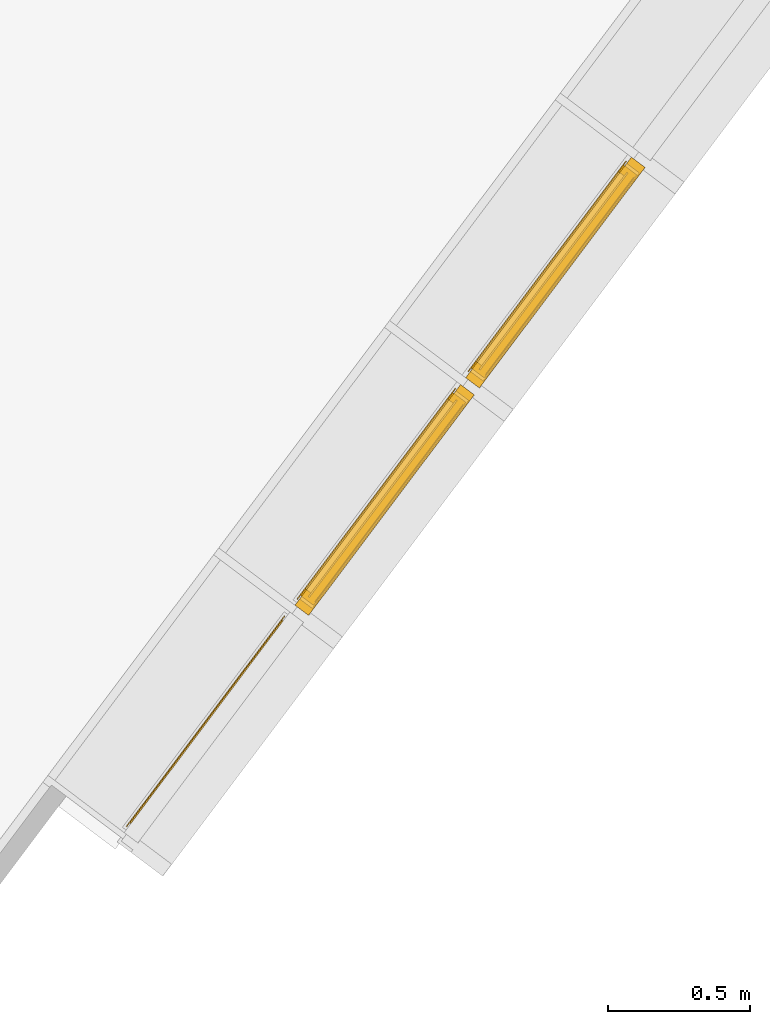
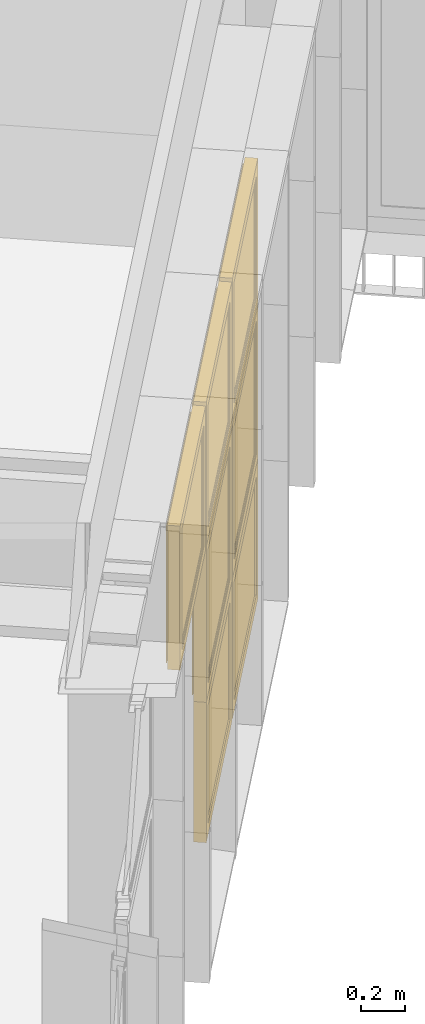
# One storey, part 208 of 243: 7 windows, 1 element without a shape of its own.
"""IFC2X3 building model written with IfcOpenShell, lengths in metres."""

import ifcopenshell
import ifcopenshell.guid

model = None  # the IFC model being written
_history = None  # IfcOwnerHistory: only IFC2X3 demands one
_inside = {}  # id of a spatial element -> (the spatial element, [elements in it])
_under = {}  # id of a project, library or spatial element -> (it, [spatial elements below it])
_declared = {}  # id of a project -> (the project, [libraries it declares])
_typed = {}  # id of a type object -> (the type object, [elements of that type])
_made_of = {}  # id of a material, layer set ... -> (it, [elements and type objects made of it])


def new_model(schema):
    """Start an empty IFC model of exactly this schema.

    Asked for "IFC4X3", IfcOpenShell would pick the latest addendum, in which some entities
    have other attributes; the version numbers below select the first issue.
    IFC2X3 requires an IfcOwnerHistory on every rooted entity: one is made here for all.
    """
    global model, _history
    if schema == "IFC4X3":
        model = ifcopenshell.file(schema_version=(4, 3, 0, 0))
    else:
        model = ifcopenshell.file(schema=schema)
    _inside.clear()
    _under.clear()
    _declared.clear()
    _typed.clear()
    _made_of.clear()
    _history = None
    if model.schema == "IFC2X3":
        org = make("IfcOrganization", Name="unknown")
        user = make(
            "IfcPersonAndOrganization",
            ThePerson=make("IfcPerson", FamilyName="unknown"),
            TheOrganization=org,
        )
        app = make(
            "IfcApplication",
            ApplicationDeveloper=org,
            Version="unknown",
            ApplicationFullName="unknown",
            ApplicationIdentifier="unknown",
        )
        _history = make(
            "IfcOwnerHistory",
            OwningUser=user,
            OwningApplication=app,
            ChangeAction="ADDED",
            CreationDate=0,
        )
    return model


def make(cls, **values):
    """One entity of the class cls with the attributes given. An attribute that is None is left unset."""
    return model.create_entity(
        cls, **{name: value for name, value in values.items() if value is not None}
    )


def entity(cls, *values):
    """Any entity or typed value of the class cls, its attributes in the order of the schema. None: left unset."""
    e = model.create_entity(cls)
    for i, value in enumerate(values):
        if value is not None:
            e[i] = value
    return e


def rooted(cls, **values):
    """An entity with a GlobalId (a new one), such as an element, a storey or a relation."""
    return make(cls, GlobalId=ifcopenshell.guid.new(), OwnerHistory=_history, **values)


def si_unit(unit_type, name, prefix=None):
    """IfcSIUnit, for example si_unit("LENGTHUNIT", "METRE", prefix="MILLI")."""
    return make("IfcSIUnit", UnitType=unit_type, Prefix=prefix, Name=name)


def converted_unit(unit_type, name, factor, base, dimensions=None, offset=None):
    """IfcConversionBasedUnit, such as the inch: factor (a typed value) times the base unit."""
    return make(
        "IfcConversionBasedUnit"
        if offset is None
        else "IfcConversionBasedUnitWithOffset",
        ConversionOffset=offset,
        Dimensions=None
        if dimensions is None
        else entity("IfcDimensionalExponents", *dimensions),
        UnitType=unit_type,
        Name=name,
        ConversionFactor=make(
            "IfcMeasureWithUnit", ValueComponent=factor, UnitComponent=base
        ),
    )


def derived_unit(unit_type, elements):
    """IfcDerivedUnit: a product of units, each with its exponent."""
    return make(
        "IfcDerivedUnit",
        Elements=[
            make("IfcDerivedUnitElement", Unit=unit, Exponent=power)
            for unit, power in elements
        ],
        UnitType=unit_type,
    )


def assignment(units):
    """IfcUnitAssignment: the units of a project."""
    return None if units is None else make("IfcUnitAssignment", Units=units)


def point(xyz):
    """IfcCartesianPoint."""
    return None if xyz is None else make("IfcCartesianPoint", Coordinates=xyz)


def direction(xyz):
    """IfcDirection."""
    return None if xyz is None else make("IfcDirection", DirectionRatios=xyz)


def frame(location, z_axis=None, x_axis=None):
    """IfcAxis2Placement3D, a coordinate frame: its origin and axes. An axis left out is left unset."""
    return make(
        "IfcAxis2Placement3D",
        Location=point(location),
        Axis=direction(z_axis),
        RefDirection=direction(x_axis),
    )


def origin():
    """The frame at (0, 0, 0) with its axes left unset."""
    return frame((0.0, 0.0, 0.0))


def place(relative_to, where):
    """IfcLocalPlacement: puts the frame where relative to a parent placement (None: the world)."""
    return make(
        "IfcLocalPlacement", PlacementRelTo=relative_to, RelativePlacement=where
    )


def context(
    kind, dimensions, precision=None, world=None, true_north=None, identifier=None
):
    """IfcGeometricRepresentationContext, for example the 3D "Model" context."""
    return make(
        "IfcGeometricRepresentationContext",
        ContextIdentifier=identifier,
        ContextType=kind,
        CoordinateSpaceDimension=dimensions,
        Precision=precision,
        WorldCoordinateSystem=world,
        TrueNorth=true_north,
    )


def subcontext(parent, identifier, kind, view, scale=None):
    """IfcGeometricRepresentationSubContext, for example "Body" below "Model"."""
    return make(
        "IfcGeometricRepresentationSubContext",
        ContextIdentifier=identifier,
        ContextType=kind,
        ParentContext=parent,
        TargetScale=scale,
        TargetView=view,
    )


def project(units=None, contexts=None):
    """IfcProject with its units and contexts."""
    return rooted(
        "IfcProject",
        Name="project",
        RepresentationContexts=contexts,
        UnitsInContext=assignment(units),
    )


def spatial(cls, under=None, at=None, **own):
    """A site, building, storey or space (cls), placed at a placement, below another one or the project."""
    s = rooted(cls, ObjectPlacement=at, **own)
    if under is not None:
        _under.setdefault(under.id(), (under, []))[1].append(s)
    return s


def faces_of(points, faces, orient=None, outer=None):
    """IfcFace entities. A face is a list of loops; a loop is a list of indices into points, from 0.

    orient and outer hold one flag for each loop. By default every Orientation is true, the
    first loop of a face is its IfcFaceOuterBound and the others are IfcFaceBound.
    """
    made = []
    for i, loops in enumerate(faces):
        bounds = []
        for j, loop in enumerate(loops):
            is_outer = j == 0 if outer is None else outer[i][j]
            bounds.append(
                make(
                    "IfcFaceOuterBound" if is_outer else "IfcFaceBound",
                    Bound=make("IfcPolyLoop", Polygon=[points[k] for k in loop]),
                    Orientation=True if orient is None else orient[i][j],
                )
            )
        made.append(make("IfcFace", Bounds=bounds))
    return made


def faceted_brep(points, faces, orient=None, outer=None, voids=None):
    """IfcFacetedBrep: a solid bounded by flat faces; with voids (closed shells), ...WithVoids."""
    shared = [point(p) for p in points]
    hull = make("IfcClosedShell", CfsFaces=faces_of(shared, faces, orient, outer))
    if voids is None:
        return make("IfcFacetedBrep", Outer=hull)
    return make(
        "IfcFacetedBrepWithVoids",
        Outer=hull,
        Voids=[
            make(cls, CfsFaces=faces_of(shared, fs, o, b)) for cls, fs, o, b in voids
        ],
    )


def shape(context_of_items, identifier, shape_type, items):
    """IfcShapeRepresentation: the items that make up one representation, for example the "Body"."""
    return make(
        "IfcShapeRepresentation",
        ContextOfItems=context_of_items,
        RepresentationIdentifier=identifier,
        RepresentationType=shape_type,
        Items=items,
    )


def source(mapping_origin, context_of_items, identifier, shape_type, items):
    """IfcRepresentationMap: a shape defined once, which mapped items show again and again."""
    return make(
        "IfcRepresentationMap",
        MappingOrigin=mapping_origin,
        MappedRepresentation=shape(context_of_items, identifier, shape_type, items),
    )


def transform(
    local_origin,
    x_axis=None,
    y_axis=None,
    z_axis=None,
    scale=None,
    scale2=None,
    scale3=None,
    uniform=True,
):
    """IfcCartesianTransformationOperator3D, or its non-uniform kind. x_axis, y_axis, z_axis: its Axis1, 2, 3."""
    if uniform:
        return make(
            "IfcCartesianTransformationOperator3D",
            Axis1=direction(x_axis),
            Axis2=direction(y_axis),
            LocalOrigin=point(local_origin),
            Scale=scale,
            Axis3=direction(z_axis),
        )
    return make(
        "IfcCartesianTransformationOperator3DnonUniform",
        Axis1=direction(x_axis),
        Axis2=direction(y_axis),
        LocalOrigin=point(local_origin),
        Scale=scale,
        Axis3=direction(z_axis),
        Scale2=scale2,
        Scale3=scale3,
    )


def mapped(mapping_source, mapping_target):
    """IfcMappedItem: shows the shape of a source again, moved by a transform."""
    return make(
        "IfcMappedItem", MappingSource=mapping_source, MappingTarget=mapping_target
    )


def material(Name=None, Category=None):
    """IfcMaterial."""
    return make("IfcMaterial", Name=Name, Category=Category)


def material_list(materials):
    """IfcMaterialList."""
    return make("IfcMaterialList", Materials=materials)


def made_of(thing, what):
    """Note that an element or type object is made of a material, layer set ...; save() writes the relation."""
    if what is not None:
        _made_of.setdefault(what.id(), (what, []))[1].append(thing)
    return thing


def type_object(cls, material=None, **own):
    """A type object (cls), such as IfcWallType, which elements share."""
    return made_of(rooted(cls, **own), material)


def type_shapes(of_type, sources):
    """Give a type object the sources (RepresentationMaps) that its elements show as mapped items."""
    of_type.RepresentationMaps = sources


def element(
    cls,
    number,
    at=None,
    inside=None,
    cuts=None,
    type_object=None,
    material=None,
    context=None,
    identifier="Body",
    shape_type=None,
    held_by="IfcProductDefinitionShape",
    body=None,
    shapes=None,
    **own,
):
    """One element of the class cls, such as IfcWall. Its Tag is "e" and its number.

    at: its placement. inside: the storey or other place that contains it. cuts: it is an
    opening in that element (IfcRelVoidsElement). A single representation is given by context,
    identifier, shape_type and body (its items); several are given by shapes. held_by: the class
    of the entity that holds the representations. save() writes the other relations.
    """
    e = rooted(cls, Tag="e%d" % number, ObjectPlacement=at, **own)
    if body is not None:
        shapes = [shape(context, identifier, shape_type, body)]
    if shapes is not None:
        e.Representation = make(held_by, Representations=shapes)
    if inside is not None:
        _inside.setdefault(inside.id(), (inside, []))[1].append(e)
    if cuts is not None:
        rooted(
            "IfcRelVoidsElement", RelatingBuildingElement=cuts, RelatedOpeningElement=e
        )
    if type_object is not None:
        _typed.setdefault(type_object.id(), (type_object, []))[1].append(e)
    return made_of(e, material)


def aggregate(whole, parts):
    """IfcRelAggregates: a whole, such as a stair, and the parts it consists of."""
    return rooted("IfcRelAggregates", RelatingObject=whole, RelatedObjects=parts)


def save(model, path):
    """Write the relations noted so far, then the file.

    IfcRelAggregates (storeys below a building ...), IfcRelContainedInSpatialStructure (elements
    in a storey), IfcRelDefinesByType, IfcRelAssociatesMaterial and IfcRelDeclares: one each for
    every whole, place, type object, material and project.
    """
    for whole, parts in _under.values():
        aggregate(whole, parts)
    for where, things in _inside.values():
        rooted(
            "IfcRelContainedInSpatialStructure",
            RelatedElements=things,
            RelatingStructure=where,
        )
    for kind, things in _typed.values():
        rooted("IfcRelDefinesByType", RelatedObjects=things, RelatingType=kind)
    for what, things in _made_of.values():
        rooted("IfcRelAssociatesMaterial", RelatedObjects=things, RelatingMaterial=what)
    for by, libraries in _declared.values():
        rooted("IfcRelDeclares", RelatingContext=by, RelatedDefinitions=libraries)
    model.write(path)


model = new_model("IFC2X3")

# Units and contexts
model_context = context("Model", 3, precision=1e-05, world=origin(), true_north=direction((6.123031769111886e-17, 1.0)))
body_context = subcontext(model_context, "Body", "Model", "MODEL_VIEW")
ifc_project = project(units=[si_unit("LENGTHUNIT", "METRE"), si_unit("AREAUNIT", "SQUARE_METRE"), si_unit("VOLUMEUNIT", "CUBIC_METRE"), converted_unit("PLANEANGLEUNIT", "DEGREE", entity("IfcRatioMeasure", 0.017453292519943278), si_unit("PLANEANGLEUNIT", "RADIAN"), dimensions=[0, 0, 0, 0, 0, 0, 0]), si_unit("MASSUNIT", "GRAM", prefix="KILO"), derived_unit("MASSDENSITYUNIT", [(si_unit("MASSUNIT", "GRAM", prefix="KILO"), 1), (si_unit("LENGTHUNIT", "METRE"), -3)]), derived_unit("IONCONCENTRATIONUNIT", [(si_unit("MASSUNIT", "GRAM", prefix="KILO"), 1), (si_unit("LENGTHUNIT", "METRE"), -3)]), derived_unit("MOMENTOFINERTIAUNIT", [(si_unit("LENGTHUNIT", "METRE"), 4)]), si_unit("TIMEUNIT", "SECOND"), si_unit("FREQUENCYUNIT", "HERTZ"), si_unit("THERMODYNAMICTEMPERATUREUNIT", "DEGREE_CELSIUS"), derived_unit("THERMALTRANSMITTANCEUNIT", [(si_unit("MASSUNIT", "GRAM", prefix="KILO"), 1), (si_unit("THERMODYNAMICTEMPERATUREUNIT", "KELVIN"), -1), (si_unit("TIMEUNIT", "SECOND"), -3)]), derived_unit("THERMALCONDUCTANCEUNIT", [(si_unit("MASSUNIT", "GRAM", prefix="KILO"), 1), (si_unit("THERMODYNAMICTEMPERATUREUNIT", "KELVIN"), -1), (si_unit("TIMEUNIT", "SECOND"), -3), (si_unit("LENGTHUNIT", "METRE"), 1)]), derived_unit("VOLUMETRICFLOWRATEUNIT", [(si_unit("LENGTHUNIT", "METRE"), 3), (si_unit("TIMEUNIT", "SECOND"), -1)]), derived_unit("MASSFLOWRATEUNIT", [(si_unit("MASSUNIT", "GRAM", prefix="KILO"), 1), (si_unit("TIMEUNIT", "SECOND"), -1)]), derived_unit("ROTATIONALFREQUENCYUNIT", [(si_unit("TIMEUNIT", "SECOND"), -1)]), si_unit("ELECTRICCURRENTUNIT", "AMPERE"), si_unit("ELECTRICVOLTAGEUNIT", "VOLT"), si_unit("POWERUNIT", "WATT"), si_unit("FORCEUNIT", "NEWTON", prefix="KILO"), si_unit("ILLUMINANCEUNIT", "LUX"), si_unit("LUMINOUSFLUXUNIT", "LUMEN"), si_unit("LUMINOUSINTENSITYUNIT", "CANDELA"), derived_unit("USERDEFINED", [(si_unit("MASSUNIT", "GRAM", prefix="KILO"), -1), (si_unit("LENGTHUNIT", "METRE"), -2), (si_unit("TIMEUNIT", "SECOND"), 3), (si_unit("LUMINOUSFLUXUNIT", "LUMEN"), 1)]), derived_unit("USERDEFINED", [(si_unit("MASSUNIT", "GRAM", prefix="KILO"), 1), (si_unit("TIMEUNIT", "SECOND"), -3), (si_unit("LENGTHUNIT", "METRE"), 3), (si_unit("ELECTRICCURRENTUNIT", "AMPERE"), -2)]), derived_unit("SOUNDPOWERUNIT", [(si_unit("MASSUNIT", "GRAM", prefix="KILO"), 1), (si_unit("TIMEUNIT", "SECOND"), -3), (si_unit("LENGTHUNIT", "METRE"), 2)]), derived_unit("SOUNDPRESSUREUNIT", [(si_unit("MASSUNIT", "GRAM", prefix="KILO"), 1), (si_unit("LENGTHUNIT", "METRE"), -1), (si_unit("TIMEUNIT", "SECOND"), -2)]), derived_unit("LINEARVELOCITYUNIT", [(si_unit("LENGTHUNIT", "METRE"), 1), (si_unit("TIMEUNIT", "SECOND"), -1)]), si_unit("PRESSUREUNIT", "PASCAL"), derived_unit("USERDEFINED", [(si_unit("MASSUNIT", "GRAM", prefix="KILO"), 1), (si_unit("LENGTHUNIT", "METRE"), -2), (si_unit("TIMEUNIT", "SECOND"), -2)]), derived_unit("LINEARFORCEUNIT", [(si_unit("MASSUNIT", "GRAM", prefix="KILO"), 1), (si_unit("TIMEUNIT", "SECOND"), -2)]), derived_unit("PLANARFORCEUNIT", [(si_unit("MASSUNIT", "GRAM", prefix="KILO"), 1), (si_unit("LENGTHUNIT", "METRE"), -1), (si_unit("TIMEUNIT", "SECOND"), -2)]), derived_unit("SPECIFICHEATCAPACITYUNIT", [(si_unit("THERMODYNAMICTEMPERATUREUNIT", "KELVIN"), -1), (si_unit("LENGTHUNIT", "METRE"), 2), (si_unit("TIMEUNIT", "SECOND"), -2)]), derived_unit("HEATINGVALUEUNIT", [(si_unit("LENGTHUNIT", "METRE"), 2), (si_unit("TIMEUNIT", "SECOND"), -2)]), derived_unit("VAPORPERMEABILITYUNIT", [(si_unit("LENGTHUNIT", "METRE"), -1), (si_unit("TIMEUNIT", "SECOND"), 1)]), derived_unit("DYNAMICVISCOSITYUNIT", [(si_unit("MASSUNIT", "GRAM", prefix="KILO"), 1), (si_unit("TIMEUNIT", "SECOND"), -1), (si_unit("LENGTHUNIT", "METRE"), -1)]), derived_unit("THERMALEXPANSIONCOEFFICIENTUNIT", [(si_unit("THERMODYNAMICTEMPERATUREUNIT", "KELVIN"), -1)]), derived_unit("MODULUSOFELASTICITYUNIT", [(si_unit("MASSUNIT", "GRAM", prefix="KILO"), 1), (si_unit("LENGTHUNIT", "METRE"), -1), (si_unit("TIMEUNIT", "SECOND"), -2)]), derived_unit("ISOTHERMALMOISTURECAPACITYUNIT", [(si_unit("LENGTHUNIT", "METRE"), 3), (si_unit("MASSUNIT", "GRAM", prefix="KILO"), -1)]), derived_unit("MOISTUREDIFFUSIVITYUNIT", [(si_unit("TIMEUNIT", "SECOND"), -1), (si_unit("LENGTHUNIT", "METRE"), 2)])], contexts=[model_context])

# Site, building, storey
site_placement = place(None, frame((0.0, 0.0, 235.0), z_axis=(0.0, 0.0, 1.0), x_axis=(-0.7996477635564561, 0.6004693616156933, 0.0)))
site = spatial("IfcSite", under=ifc_project, at=site_placement, Name="Default", CompositionType="ELEMENT")
building_placement = place(site_placement, origin())
building = spatial("IfcBuilding", under=site, at=building_placement, CompositionType="ELEMENT")
storey_placement = place(building_placement, origin())
storey = spatial("IfcBuildingStorey", under=building, at=storey_placement, Name="P0- Escola", CompositionType="ELEMENT", Elevation=0.0)

# Curtain wall, windows
curtain_wall_type = type_object("IfcCurtainWallType", Name="Muro cortina:MC- EXT- MC2", PredefinedType="NOTDEFINED")
curtain_wall_placement = place(storey_placement, origin())
curtain_wall = element("IfcCurtainWall", 1, at=curtain_wall_placement, inside=storey, type_object=curtain_wall_type, Name="Muro cortina:MC- EXT- MC2", ObjectType="Muro cortina:MC- EXT- MC2")
ifc_material_1 = material(Name="_Vidre")
ifc_material_2 = material(Name="_Alumini- T1- Perfil")
ifc_material_list = material_list([ifc_material_1, ifc_material_2])
window_style_1 = type_object("IfcWindowStyle", Name="MC- Alu- Conjunt vidre fix- 62x60 cm:MC- Alu- Conjunt vidre fix- 62x60 cm", ConstructionType="NOTDEFINED", OperationType="NOTDEFINED", ParameterTakesPrecedence=False, Sizeable=False, material=ifc_material_list)
shared_shape_1 = source(origin(), body_context, "Body", "Brep", [
    faceted_brep([(0.4361932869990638, -0.007600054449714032, 0.048806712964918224), (0.4361932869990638, -0.03160022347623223, 0.048806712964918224), (-0.4361932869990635, -0.03160022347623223, 0.048806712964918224), (-0.4361932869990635, -0.007600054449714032, 0.048806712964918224), (0.4361932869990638, -0.007600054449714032, 0.7387000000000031), (-0.4361932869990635, -0.007600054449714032, 0.7387000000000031), (-0.4361932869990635, -0.03160022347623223, 0.7387000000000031), (0.4361932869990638, -0.03160022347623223, 0.7387000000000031)], [[[0, 1, 2, 3]], [[4, 0, 3, 5]], [[5, 3, 2, 6]], [[6, 2, 1, 7]], [[7, 1, 0, 4]], [[4, 5, 6, 7]]]),
    faceted_brep([(0.48499999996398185, -0.05999999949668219, 0.7877000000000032), (0.48499999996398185, -0.05999999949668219, 0.0), (0.48499999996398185, 0.0, 0.0), (0.48499999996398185, 0.0, 0.787700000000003), (-0.48499999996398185, 0.0, 0.7877000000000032), (-0.48499999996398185, 0.0, 0.0), (0.4221931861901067, 0.0, 0.7248931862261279), (-0.42219318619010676, 0.0, 0.724893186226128), (-0.4221931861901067, 0.0, 0.0628068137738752), (0.4221931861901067, 0.0, 0.06280681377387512), (-0.48499999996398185, -0.05999999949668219, 0.0), (-0.48499999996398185, -0.05999999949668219, 0.7877000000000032), (-0.42219603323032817, -0.05999999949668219, 0.7248960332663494), (0.42219603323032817, -0.05999999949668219, 0.7248960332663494), (0.42219603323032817, -0.05999999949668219, 0.0628039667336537), (-0.42219603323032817, -0.05999999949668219, 0.0628039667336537), (0.4221960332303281, -0.03160022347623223, 0.7248960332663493), (0.42219603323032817, -0.03160022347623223, 0.0628039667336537), (-0.42219603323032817, -0.03160022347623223, 0.06280396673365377), (-0.42219603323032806, -0.03160022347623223, 0.7248960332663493), (-0.43619328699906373, -0.03160022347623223, 0.738893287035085), (0.43619328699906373, -0.03160022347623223, 0.738893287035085), (0.43619328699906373, -0.03160022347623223, 0.048806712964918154), (-0.43619328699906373, -0.03160022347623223, 0.04880671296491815), (0.43619328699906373, -0.007600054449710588, 0.738893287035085), (0.43619328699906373, -0.007600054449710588, 0.04880671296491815), (-0.43619328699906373, -0.007600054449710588, 0.048806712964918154), (-0.43619328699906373, -0.007600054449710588, 0.738893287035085), (-0.42219318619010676, -0.007600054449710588, 0.724893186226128), (0.42219318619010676, -0.007600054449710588, 0.724893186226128), (0.42219318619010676, -0.007600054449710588, 0.06280681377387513), (-0.42219318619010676, -0.007600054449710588, 0.06280681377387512)], [[[0, 1, 2, 3]], [[4, 3, 2, 5], [6, 7, 8, 9]], [[1, 10, 5, 2]], [[0, 11, 10, 1], [12, 13, 14, 15]], [[16, 17, 14, 13]], [[17, 18, 15, 14]], [[16, 19, 18, 17], [20, 21, 22, 23]], [[24, 25, 22, 21]], [[25, 26, 23, 22]], [[24, 27, 26, 25], [28, 29, 30, 31]], [[6, 9, 30, 29]], [[9, 8, 31, 30]], [[10, 11, 4, 5]], [[18, 19, 12, 15]], [[26, 27, 20, 23]], [[8, 7, 28, 31]], [[11, 0, 3, 4]], [[19, 16, 13, 12]], [[27, 24, 21, 20]], [[7, 6, 29, 28]]], outer=[[True], [True, False], [True], [True, False], [True], [True], [False, True], [True], [True], [True, False], [True], [True], [True], [True], [True], [True], [True], [True], [True], [True]]),
])
type_shapes(window_style_1, [shared_shape_1])
window_1_placement = place(curtain_wall_placement, frame((41.04514768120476, -31.915191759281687, 0.03229999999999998), z_axis=(0.0, 0.0, 1.0), x_axis=(0.0, 1.0, 0.0)))
window_1 = element("IfcWindow", 2, at=window_1_placement, type_object=window_style_1, material=ifc_material_list, Name="MC- Alu- Conjunt vidre fix- 62x60 cm:MC- Alu- Conjunt vidre fix- 62x60 cm", ObjectType="MC- Alu- Conjunt vidre fix- 62x60 cm:MC- Alu- Conjunt vidre fix- 62x60 cm", OverallHeight=0.7877000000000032, OverallWidth=0.9699999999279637, context=body_context, shape_type="MappedRepresentation", body=[
    mapped(shared_shape_1, transform((0.0, 0.0, 0.0), scale=1.0)),
])
window_2_placement = place(curtain_wall_placement, frame((41.04514768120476, -32.91519175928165, 0.03229999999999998), z_axis=(0.0, 0.0, 1.0), x_axis=(0.0, 1.0, 0.0)))
window_2 = element("IfcWindow", 3, at=window_2_placement, type_object=window_style_1, material=ifc_material_list, Name="MC- Alu- Conjunt vidre fix- 62x60 cm:MC- Alu- Conjunt vidre fix- 62x60 cm", ObjectType="MC- Alu- Conjunt vidre fix- 62x60 cm:MC- Alu- Conjunt vidre fix- 62x60 cm", OverallHeight=0.7877000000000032, OverallWidth=0.9699999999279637, context=body_context, shape_type="MappedRepresentation", body=[
    mapped(shared_shape_1, transform((0.0, 0.0, 0.0), scale=1.0)),
])
window_style_2 = type_object("IfcWindowStyle", Name="MC- Alu- Conjunt finestra basculant- 68x68 cm:MC- Alu- Conjunt finestra basculant- 68x68 cm", ConstructionType="NOTDEFINED", OperationType="NOTDEFINED", ParameterTakesPrecedence=False, Sizeable=False, material=ifc_material_list)
shared_shape_2 = source(origin(), body_context, "Body", "Brep", [
    faceted_brep([(0.43291170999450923, -0.03559830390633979, 0.051999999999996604), (-0.43291170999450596, -0.03559830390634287, 0.051999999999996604), (-0.43291170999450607, -0.011598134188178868, 0.051999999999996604), (0.43291170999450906, -0.011598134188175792, 0.051999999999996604), (0.43291170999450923, -0.035598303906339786, 0.8228027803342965), (0.43291170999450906, -0.011598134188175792, 0.8228027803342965), (-0.43291170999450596, -0.011598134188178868, 0.8228027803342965), (-0.43291170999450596, -0.03559830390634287, 0.8228027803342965)], [[[0, 1, 2, 3]], [[4, 0, 3, 5]], [[5, 3, 2, 6]], [[6, 2, 1, 7]], [[7, 1, 0, 4]], [[4, 5, 6, 7]]]),
    faceted_brep([(-0.4172108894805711, -0.009998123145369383, 0.8071019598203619), (-0.4172108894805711, -0.00999812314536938, 0.06789804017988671), (-0.4172108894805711, -0.007998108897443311, 0.06789804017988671), (-0.4172108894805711, -0.007998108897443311, 0.8071019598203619), (-0.44610892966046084, -0.007998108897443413, 0.8360000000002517), (0.44610892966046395, -0.007998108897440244, 0.8360000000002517), (0.44610892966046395, -0.007998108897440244, 0.03899999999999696), (-0.44610892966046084, -0.007998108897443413, 0.03899999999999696), (0.4172108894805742, -0.007998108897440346, 0.8071019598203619), (0.4172108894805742, -0.007998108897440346, 0.06789804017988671), (0.4172108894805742, -0.009998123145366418, 0.06789804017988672), (0.4172108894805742, -0.009998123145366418, 0.8071019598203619), (0.4329117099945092, -0.00999812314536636, 0.8228027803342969), (-0.43291170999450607, -0.009998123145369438, 0.8228027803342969), (-0.43291170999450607, -0.009998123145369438, 0.05219721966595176), (0.4329117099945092, -0.00999812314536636, 0.052197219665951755), (-0.4329117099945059, -0.04079986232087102, 0.8228027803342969), (-0.4329117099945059, -0.04079986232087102, 0.052197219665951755), (0.4329117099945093, -0.04079986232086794, 0.05219721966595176), (0.4329117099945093, -0.04079986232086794, 0.8228027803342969), (0.41721088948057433, -0.040799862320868, 0.8071019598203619), (-0.41721088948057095, -0.04079986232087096, 0.8071019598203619), (-0.41721088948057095, -0.04079986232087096, 0.06789804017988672), (0.41721088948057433, -0.040799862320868, 0.06789804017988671), (-0.4172108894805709, -0.06800005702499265, 0.8071019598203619), (-0.4172108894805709, -0.06800005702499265, 0.06789804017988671), (0.4172108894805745, -0.0680000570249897, 0.06789804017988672), (0.4172108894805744, -0.0680000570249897, 0.8071019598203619), (0.4636128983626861, -0.06800005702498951, 0.8535039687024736), (-0.4636128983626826, -0.06800005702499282, 0.8535039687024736), (-0.4636128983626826, -0.06800005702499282, 0.021496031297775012), (0.4636128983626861, -0.06800005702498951, 0.021496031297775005), (-0.4636128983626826, -0.0645000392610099, 0.8535039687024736), (-0.4636128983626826, -0.06450003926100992, 0.021496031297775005), (0.4636128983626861, -0.06450003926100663, 0.021496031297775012), (0.4636128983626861, -0.06450003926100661, 0.8535039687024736), (0.44610892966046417, -0.06450003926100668, 0.8360000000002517), (-0.4461089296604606, -0.06450003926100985, 0.8360000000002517), (-0.4461089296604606, -0.06450003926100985, 0.03899999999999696), (0.44610892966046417, -0.06450003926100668, 0.038999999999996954)], [[[0, 1, 2, 3]], [[4, 5, 6, 7], [8, 3, 2, 9]], [[1, 10, 9, 2]], [[0, 11, 10, 1], [12, 13, 14, 15]], [[16, 17, 14, 13]], [[17, 18, 15, 14]], [[16, 19, 18, 17], [20, 21, 22, 23]], [[24, 25, 22, 21]], [[25, 26, 23, 22]], [[24, 27, 26, 25], [28, 29, 30, 31]], [[32, 33, 30, 29]], [[33, 34, 31, 30]], [[32, 35, 34, 33], [36, 37, 38, 39]], [[4, 7, 38, 37]], [[7, 6, 39, 38]], [[10, 11, 8, 9]], [[18, 19, 12, 15]], [[26, 27, 20, 23]], [[34, 35, 28, 31]], [[6, 5, 36, 39]], [[11, 0, 3, 8]], [[19, 16, 13, 12]], [[27, 24, 21, 20]], [[35, 32, 29, 28]], [[5, 4, 37, 36]]], outer=[[True], [True, False], [True], [False, True], [True], [True], [True, False], [True], [True], [False, True], [True], [True], [True, False], [True], [True], [True], [True], [True], [True], [True], [True], [True], [True], [True], [True]]),
    faceted_brep([(0.42219318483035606, 0.0, 0.8121931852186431), (0.42219318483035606, 0.0, 0.06280681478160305), (0.42219318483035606, -0.0040000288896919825, 0.06280681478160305), (0.42219318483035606, -0.0040000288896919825, 0.8121931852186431), (-0.42219318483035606, -0.0040000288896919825, 0.8121931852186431), (-0.42219318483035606, -0.0040000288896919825, 0.06280681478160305), (0.4575998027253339, -0.0040000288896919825, 0.8475998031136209), (-0.4575998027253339, -0.0040000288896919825, 0.8475998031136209), (-0.4575998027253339, -0.0040000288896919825, 0.027400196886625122), (0.4575998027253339, -0.0040000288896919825, 0.02740019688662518), (-0.42219318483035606, 0.0, 0.06280681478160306), (-0.42219318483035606, 0.0, 0.8121931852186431), (-0.48499999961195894, 0.0, 0.875000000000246), (0.48499999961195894, 0.0, 0.875000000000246), (0.48499999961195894, 0.0, 0.0), (-0.48499999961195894, 0.0, 0.0), (0.48499999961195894, -0.05999999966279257, 0.875000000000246), (0.48499999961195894, -0.05999999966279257, 0.0), (-0.48499999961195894, -0.05999999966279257, 0.0), (-0.48499999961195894, -0.05999999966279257, 0.875000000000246), (-0.4575998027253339, -0.05999999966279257, 0.8475998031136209), (0.4575998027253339, -0.05999999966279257, 0.8475998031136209), (0.4575998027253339, -0.05999999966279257, 0.027400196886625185), (-0.4575998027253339, -0.05999999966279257, 0.02740019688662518)], [[[0, 1, 2, 3]], [[4, 3, 2, 5], [6, 7, 8, 9]], [[1, 10, 5, 2]], [[0, 11, 10, 1], [12, 13, 14, 15]], [[16, 17, 14, 13]], [[17, 18, 15, 14]], [[16, 19, 18, 17], [20, 21, 22, 23]], [[6, 9, 22, 21]], [[9, 8, 23, 22]], [[10, 11, 4, 5]], [[18, 19, 12, 15]], [[8, 7, 20, 23]], [[11, 0, 3, 4]], [[19, 16, 13, 12]], [[7, 6, 21, 20]]], outer=[[True], [False, True], [True], [False, True], [True], [True], [True, False], [True], [True], [True], [True], [True], [True], [True], [True]]),
])
type_shapes(window_style_2, [shared_shape_2])
window_3_placement = place(curtain_wall_placement, frame((41.04514768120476, -31.915191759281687, 0.8200000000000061), z_axis=(0.0, 0.0, 1.0), x_axis=(0.0, 1.0, 0.0)))
window_3 = element("IfcWindow", 4, at=window_3_placement, type_object=window_style_2, material=ifc_material_list, Name="MC- Alu- Conjunt finestra basculant- 68x68 cm:MC- Alu- Conjunt finestra basculant- 68x68 cm", ObjectType="MC- Alu- Conjunt finestra basculant- 68x68 cm:MC- Alu- Conjunt finestra basculant- 68x68 cm", OverallHeight=0.8750000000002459, OverallWidth=0.9699999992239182, context=body_context, shape_type="MappedRepresentation", body=[
    mapped(shared_shape_2, transform((0.0, 0.0, 0.0), scale=1.0)),
])
window_4_placement = place(curtain_wall_placement, frame((41.04514768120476, -32.91519175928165, 0.8200000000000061), z_axis=(0.0, 0.0, 1.0), x_axis=(0.0, 1.0, 0.0)))
window_4 = element("IfcWindow", 5, at=window_4_placement, type_object=window_style_2, material=ifc_material_list, Name="MC- Alu- Conjunt finestra basculant- 68x68 cm:MC- Alu- Conjunt finestra basculant- 68x68 cm", ObjectType="MC- Alu- Conjunt finestra basculant- 68x68 cm:MC- Alu- Conjunt finestra basculant- 68x68 cm", OverallHeight=0.8750000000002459, OverallWidth=0.9699999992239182, context=body_context, shape_type="MappedRepresentation", body=[
    mapped(shared_shape_2, transform((0.0, 0.0, 0.0), scale=1.0)),
])
window_style_3 = type_object("IfcWindowStyle", Name="MC- Alu- Conjunt finestra basculant- 68x68 cm:MC- Alu- Conjunt finestra basculant- 68x68 cm", ConstructionType="NOTDEFINED", OperationType="NOTDEFINED", ParameterTakesPrecedence=False, Sizeable=False, material=ifc_material_list)
shared_shape_3 = source(origin(), body_context, "Body", "Brep", [
    faceted_brep([(0.432911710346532, -0.03559830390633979, 0.051999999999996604), (-0.43291171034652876, -0.03559830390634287, 0.051999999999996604), (-0.4329117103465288, -0.011598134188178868, 0.051999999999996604), (0.43291171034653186, -0.011598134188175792, 0.051999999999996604), (0.432911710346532, -0.035598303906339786, 0.7565527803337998), (0.43291171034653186, -0.011598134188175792, 0.7565527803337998), (-0.43291171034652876, -0.011598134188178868, 0.7565527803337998), (-0.43291171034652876, -0.03559830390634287, 0.7565527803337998)], [[[0, 1, 2, 3]], [[4, 0, 3, 5]], [[5, 3, 2, 6]], [[6, 2, 1, 7]], [[7, 1, 0, 4]], [[4, 5, 6, 7]]]),
    faceted_brep([(-0.41721088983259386, -0.009998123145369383, 0.7408519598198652), (-0.41721088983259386, -0.00999812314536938, 0.06789804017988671), (-0.41721088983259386, -0.007998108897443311, 0.06789804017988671), (-0.41721088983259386, -0.007998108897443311, 0.7408519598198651), (-0.4461089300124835, -0.007998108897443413, 0.7697499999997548), (0.44610893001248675, -0.007998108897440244, 0.7697499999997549), (0.4461089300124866, -0.007998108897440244, 0.03899999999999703), (-0.44610893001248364, -0.007998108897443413, 0.03899999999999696), (0.41721088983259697, -0.007998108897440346, 0.7408519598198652), (0.41721088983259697, -0.007998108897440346, 0.06789804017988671), (0.41721088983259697, -0.009998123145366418, 0.06789804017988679), (0.41721088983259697, -0.009998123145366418, 0.7408519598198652), (0.4329117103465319, -0.00999812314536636, 0.7565527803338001), (-0.4329117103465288, -0.009998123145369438, 0.7565527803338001), (-0.4329117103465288, -0.009998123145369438, 0.05219721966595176), (0.4329117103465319, -0.00999812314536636, 0.052197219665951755), (-0.4329117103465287, -0.04079986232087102, 0.7565527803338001), (-0.4329117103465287, -0.04079986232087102, 0.052197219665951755), (0.4329117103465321, -0.04079986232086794, 0.05219721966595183), (0.4329117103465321, -0.04079986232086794, 0.7565527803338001), (0.41721088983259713, -0.040799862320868, 0.7408519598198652), (-0.41721088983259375, -0.04079986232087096, 0.7408519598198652), (-0.41721088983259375, -0.04079986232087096, 0.06789804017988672), (0.41721088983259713, -0.040799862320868, 0.06789804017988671), (-0.4172108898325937, -0.06800005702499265, 0.7408519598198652), (-0.4172108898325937, -0.06800005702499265, 0.06789804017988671), (0.41721088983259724, -0.0680000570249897, 0.06789804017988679), (0.4172108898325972, -0.0680000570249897, 0.7408519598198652), (0.4636128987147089, -0.06800005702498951, 0.7872539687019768), (-0.46361289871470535, -0.06800005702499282, 0.7872539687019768), (-0.46361289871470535, -0.06800005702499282, 0.021496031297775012), (0.4636128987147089, -0.06800005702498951, 0.021496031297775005), (-0.46361289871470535, -0.0645000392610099, 0.7872539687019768), (-0.46361289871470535, -0.06450003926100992, 0.021496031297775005), (0.4636128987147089, -0.06450003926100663, 0.02149603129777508), (0.4636128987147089, -0.06450003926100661, 0.7872539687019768), (0.4461089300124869, -0.06450003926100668, 0.7697499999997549), (-0.4461089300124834, -0.06450003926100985, 0.7697499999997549), (-0.4461089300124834, -0.06450003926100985, 0.03899999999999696), (0.4461089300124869, -0.06450003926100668, 0.038999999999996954)], [[[0, 1, 2, 3]], [[4, 5, 6, 7], [8, 3, 2, 9]], [[1, 10, 9, 2]], [[0, 11, 10, 1], [12, 13, 14, 15]], [[16, 17, 14, 13]], [[17, 18, 15, 14]], [[16, 19, 18, 17], [20, 21, 22, 23]], [[24, 25, 22, 21]], [[25, 26, 23, 22]], [[24, 27, 26, 25], [28, 29, 30, 31]], [[32, 33, 30, 29]], [[33, 34, 31, 30]], [[32, 35, 34, 33], [36, 37, 38, 39]], [[4, 7, 38, 37]], [[7, 6, 39, 38]], [[10, 11, 8, 9]], [[18, 19, 12, 15]], [[26, 27, 20, 23]], [[34, 35, 28, 31]], [[6, 5, 36, 39]], [[11, 0, 3, 8]], [[19, 16, 13, 12]], [[27, 24, 21, 20]], [[35, 32, 29, 28]], [[5, 4, 37, 36]]], outer=[[True], [True, False], [True], [False, True], [True], [True], [True, False], [True], [True], [False, True], [True], [True], [True, False], [True], [True], [True], [True], [True], [True], [True], [True], [True], [True], [True], [True]]),
    faceted_brep([(0.4221931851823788, 0.0, 0.7459431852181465), (0.4221931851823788, 0.0, 0.06280681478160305), (0.4221931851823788, -0.0040000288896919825, 0.06280681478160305), (0.4221931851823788, -0.0040000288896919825, 0.7459431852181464), (-0.4221931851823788, -0.0040000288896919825, 0.7459431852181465), (-0.4221931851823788, -0.0040000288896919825, 0.06280681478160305), (0.4575998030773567, -0.0040000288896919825, 0.7813498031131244), (-0.4575998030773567, -0.0040000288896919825, 0.7813498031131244), (-0.4575998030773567, -0.0040000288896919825, 0.027400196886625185), (0.4575998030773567, -0.0040000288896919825, 0.02740019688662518), (-0.4221931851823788, 0.0, 0.06280681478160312), (-0.4221931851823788, 0.0, 0.7459431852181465), (-0.48499999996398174, 0.0, 0.8087499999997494), (0.48499999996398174, 0.0, 0.8087499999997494), (0.48499999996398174, 0.0, 0.0), (-0.48499999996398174, 0.0, 0.0), (0.48499999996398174, -0.05999999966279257, 0.8087499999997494), (0.48499999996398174, -0.05999999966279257, 0.0), (-0.48499999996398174, -0.05999999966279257, 0.0), (-0.48499999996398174, -0.05999999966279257, 0.8087499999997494), (-0.4575998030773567, -0.05999999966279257, 0.7813498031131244), (0.4575998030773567, -0.05999999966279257, 0.7813498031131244), (0.4575998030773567, -0.05999999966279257, 0.027400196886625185), (-0.4575998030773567, -0.05999999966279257, 0.02740019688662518)], [[[0, 1, 2, 3]], [[4, 3, 2, 5], [6, 7, 8, 9]], [[1, 10, 5, 2]], [[0, 11, 10, 1], [12, 13, 14, 15]], [[16, 17, 14, 13]], [[17, 18, 15, 14]], [[16, 19, 18, 17], [20, 21, 22, 23]], [[6, 9, 22, 21]], [[9, 8, 23, 22]], [[10, 11, 4, 5]], [[18, 19, 12, 15]], [[8, 7, 20, 23]], [[11, 0, 3, 4]], [[19, 16, 13, 12]], [[7, 6, 21, 20]]], outer=[[True], [False, True], [True], [False, True], [True], [True], [True, False], [True], [True], [True], [True], [True], [True], [True], [True]]),
])
type_shapes(window_style_3, [shared_shape_3])
window_5_placement = place(curtain_wall_placement, frame((41.04514768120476, -30.91519175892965, 1.6950000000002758), z_axis=(0.0, 0.0, 1.0), x_axis=(0.0, 1.0, 0.0)))
window_5 = element("IfcWindow", 6, at=window_5_placement, type_object=window_style_3, material=ifc_material_list, Name="MC- Alu- Conjunt finestra basculant- 68x68 cm:MC- Alu- Conjunt finestra basculant- 68x68 cm", ObjectType="MC- Alu- Conjunt finestra basculant- 68x68 cm:MC- Alu- Conjunt finestra basculant- 68x68 cm", OverallHeight=0.8087499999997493, OverallWidth=0.9699999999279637, context=body_context, shape_type="MappedRepresentation", body=[
    mapped(shared_shape_3, transform((0.0, 0.0, 0.0), scale=1.0)),
])
window_6_placement = place(curtain_wall_placement, frame((41.04514768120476, -31.915191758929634, 1.6950000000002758), z_axis=(0.0, 0.0, 1.0), x_axis=(0.0, 1.0, 0.0)))
window_6 = element("IfcWindow", 7, at=window_6_placement, type_object=window_style_3, material=ifc_material_list, Name="MC- Alu- Conjunt finestra basculant- 68x68 cm:MC- Alu- Conjunt finestra basculant- 68x68 cm", ObjectType="MC- Alu- Conjunt finestra basculant- 68x68 cm:MC- Alu- Conjunt finestra basculant- 68x68 cm", OverallHeight=0.8087499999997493, OverallWidth=0.9699999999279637, context=body_context, shape_type="MappedRepresentation", body=[
    mapped(shared_shape_3, transform((0.0, 0.0, 0.0), scale=1.0)),
])
window_7_placement = place(curtain_wall_placement, frame((41.04514768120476, -32.915191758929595, 1.6950000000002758), z_axis=(0.0, 0.0, 1.0), x_axis=(0.0, 1.0, 0.0)))
window_7 = element("IfcWindow", 8, at=window_7_placement, type_object=window_style_3, material=ifc_material_list, Name="MC- Alu- Conjunt finestra basculant- 68x68 cm:MC- Alu- Conjunt finestra basculant- 68x68 cm", ObjectType="MC- Alu- Conjunt finestra basculant- 68x68 cm:MC- Alu- Conjunt finestra basculant- 68x68 cm", OverallHeight=0.8087499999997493, OverallWidth=0.9699999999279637, context=body_context, shape_type="MappedRepresentation", body=[
    mapped(shared_shape_3, transform((0.0, 0.0, 0.0), scale=1.0)),
])
aggregate(curtain_wall, [window_1, window_2, window_3, window_4, window_5, window_6, window_7])

save(model, "model.ifc")
